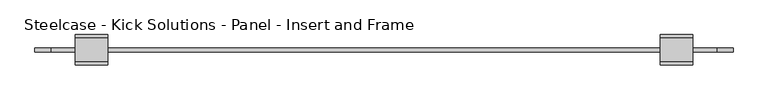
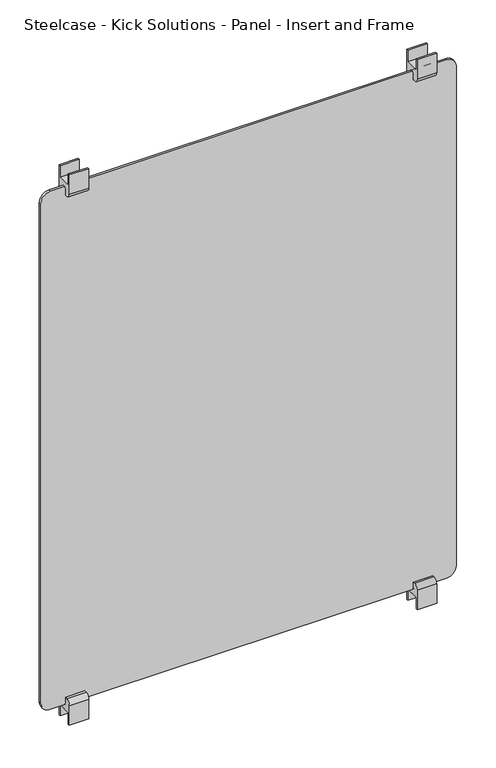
"""IFC4 building model written with IfcOpenShell, lengths in millimetres: furniture geometry, Steelcase - Kick Solutions - Panel - Insert and Frame : Laminate - 66H x 48W."""

from ifc_helpers import new_model, si_unit, point, frame, frame_2d, origin, place, context, project, spatial, polyline, circle_curve, trimmed, segment, composite_curve, outline, extrude, source, transform, mapped, element, save


def steelcase_kick_solutions_panel_insert_and_frame_5995ba37(model_context):
    return source(origin(), model_context, "Body", "SweptSolid", [
        extrude(outline(composite_curve([segment(polyline([(5.3821989, 1651.0), (10.144699, 1651.0), (10.144699, 1596.313221)]), True, "CONTINUOUS"), segment(trimmed(circle_curve(frame_2d((-1.6831687, 1596.313221)), 11.8278677), [point((10.144699, 1596.313221))], [point((-1.6831687, 1584.4853533))], False, "CARTESIAN"), True, "CONTINUOUS"), segment(polyline([(-1.6831687, 1584.4853533), (-7.3178012, 1584.4853533), (-7.3178012, 1599.8857521)]), True, "CONTINUOUS"), segment(trimmed(circle_curve(frame_2d((-13.667801, 1599.8857521)), 6.3499998), [point((-7.3178012, 1599.8857521))], [point((-20.0178007, 1599.8857521))], True, "CARTESIAN"), True, "CONTINUOUS"), segment(polyline([(-20.0178007, 1599.8857521), (-20.0178007, 1584.4853527), (-25.2074988, 1584.4853527)]), True, "CONTINUOUS"), segment(trimmed(circle_curve(frame_2d((-25.2074988, 1596.7581549)), 12.2728022), [point((-25.2074988, 1584.4853527))], [point((-37.480301, 1596.7581549))], False, "CARTESIAN"), True, "CONTINUOUS"), segment(polyline([(-37.480301, 1596.7581549), (-37.480301, 1651.0), (-32.7177988, 1651.0), (-32.7177988, 1619.2499758), (5.3821989, 1619.2499758), (5.3821989, 1651.0)]), True, "CONTINUOUS")], self_intersect=False)), frame((1042.3148583, 0.0, 0.0), z_axis=(1.0, 0.0, 0.0), x_axis=(0.0, 1.0, 0.0)), (0.0, 0.0, 1.0), 50.8),
        extrude(outline(composite_curve([segment(polyline([(5.3821989, 120.6499576), (5.3821989, 152.3999815), (-32.7177988, 152.3999815), (-32.7177988, 120.6499576), (-37.480301, 120.6499576), (-37.480301, 174.8918024)]), True, "CONTINUOUS"), segment(trimmed(circle_curve(frame_2d((-25.2074988, 174.8918024)), 12.2728022), [point((-37.480301, 174.8918024))], [point((-25.2074988, 187.1646046))], False, "CARTESIAN"), True, "CONTINUOUS"), segment(polyline([(-25.2074988, 187.1646046), (-20.0178007, 187.1646046), (-20.0178007, 171.7642058)]), True, "CONTINUOUS"), segment(trimmed(circle_curve(frame_2d((-13.667801, 171.7642058)), 6.3499998), [point((-20.0178007, 171.7642058))], [point((-7.3178012, 171.7642058))], True, "CARTESIAN"), True, "CONTINUOUS"), segment(polyline([(-7.3178012, 171.7642058), (-7.3178012, 187.1646046), (-1.6831687, 187.1646046)]), True, "CONTINUOUS"), segment(trimmed(circle_curve(frame_2d((-1.6831687, 175.3367369)), 11.8278677), [point((-1.6831687, 187.1646046))], [point((10.144699, 175.3367369))], False, "CARTESIAN"), True, "CONTINUOUS"), segment(polyline([(10.144699, 175.3367369), (10.144699, 120.6499576), (5.3821989, 120.6499576)]), True, "CONTINUOUS")], self_intersect=False)), frame((1042.3148583, 0.0, 0.0), z_axis=(1.0, 0.0, 0.0), x_axis=(0.0, 1.0, 0.0)), (0.0, 0.0, 1.0), 50.8),
        extrude(outline(composite_curve([segment(polyline([(5.3821989, 1651.0), (10.144699, 1651.0), (10.144699, 1596.3132204)]), True, "CONTINUOUS"), segment(trimmed(circle_curve(frame_2d((-1.6831684, 1596.3132204)), 11.8278674), [point((10.144699, 1596.3132204))], [point((-1.6831684, 1584.485353))], False, "CARTESIAN"), True, "CONTINUOUS"), segment(polyline([(-1.6831684, 1584.485353), (-7.3178009, 1584.485353), (-7.3178009, 1599.8857521)]), True, "CONTINUOUS"), segment(trimmed(circle_curve(frame_2d((-13.667801, 1599.8857521)), 6.3500001), [point((-7.3178009, 1599.8857521))], [point((-20.017801, 1599.8857521))], True, "CARTESIAN"), True, "CONTINUOUS"), segment(polyline([(-20.017801, 1599.8857521), (-20.017801, 1584.485353), (-25.2074991, 1584.485353)]), True, "CONTINUOUS"), segment(trimmed(circle_curve(frame_2d((-25.2074991, 1596.7581549)), 12.2728019), [point((-25.2074991, 1584.485353))], [point((-37.480301, 1596.7581549))], False, "CARTESIAN"), True, "CONTINUOUS"), segment(polyline([(-37.480301, 1596.7581549), (-37.480301, 1651.0), (-32.7177988, 1651.0), (-32.7177988, 1619.2499758), (5.3821989, 1619.2499758), (5.3821989, 1651.0)]), True, "CONTINUOUS")], self_intersect=False)), frame((126.0851417, 0.0, 0.0), z_axis=(1.0, 0.0, 0.0), x_axis=(0.0, 1.0, 0.0)), (0.0, 0.0, 1.0), 50.8),
        extrude(outline(composite_curve([segment(polyline([(5.3821989, 120.6499576), (5.3821989, 152.3999818), (-32.7177988, 152.3999818), (-32.7177988, 120.6499576), (-37.480301, 120.6499576), (-37.480301, 174.8918027)]), True, "CONTINUOUS"), segment(trimmed(circle_curve(frame_2d((-25.2074991, 174.8918027)), 12.2728019), [point((-37.480301, 174.8918027))], [point((-25.2074991, 187.1646046))], False, "CARTESIAN"), True, "CONTINUOUS"), segment(polyline([(-25.2074991, 187.1646046), (-20.017801, 187.1646046), (-20.017801, 171.7642055)]), True, "CONTINUOUS"), segment(trimmed(circle_curve(frame_2d((-13.667801, 171.7642055)), 6.3500001), [point((-20.017801, 171.7642055))], [point((-7.3178009, 171.7642055))], True, "CARTESIAN"), True, "CONTINUOUS"), segment(polyline([(-7.3178009, 171.7642055), (-7.3178009, 187.1646041), (-1.6831684, 187.1646041)]), True, "CONTINUOUS"), segment(trimmed(circle_curve(frame_2d((-1.6831684, 175.3367366)), 11.8278674), [point((-1.6831684, 187.1646041))], [point((10.144699, 175.3367366))], False, "CARTESIAN"), True, "CONTINUOUS"), segment(polyline([(10.144699, 175.3367366), (10.144699, 120.6499576), (5.3821989, 120.6499576)]), True, "CONTINUOUS")], self_intersect=False)), frame((126.0851417, 0.0, 0.0), z_axis=(1.0, 0.0, 0.0), x_axis=(0.0, 1.0, 0.0)), (0.0, 0.0, 1.0), 50.8),
        extrude(outline(composite_curve([segment(polyline([(1606.5499516, 1131.2148583), (1606.5499516, 87.9851417)]), True, "CONTINUOUS"), segment(trimmed(circle_curve(frame_2d((1581.1499516, 87.9851417)), 25.4), [point((1606.5499516, 87.9851417))], [point((1581.1499516, 62.5851417))], False, "CARTESIAN"), True, "CONTINUOUS"), segment(polyline([(1581.1499516, 62.5851417), (190.5000061, 62.5851417)]), True, "CONTINUOUS"), segment(trimmed(circle_curve(frame_2d((190.5000061, 87.9851417)), 25.4), [point((190.5000061, 62.5851417))], [point((165.1000061, 87.9851417))], False, "CARTESIAN"), True, "CONTINUOUS"), segment(polyline([(165.1000061, 87.9851417), (165.1000061, 1131.2148583)]), True, "CONTINUOUS"), segment(trimmed(circle_curve(frame_2d((190.5000061, 1131.2148583)), 25.4), [point((165.1000061, 1131.2148583))], [point((190.5000061, 1156.6148583))], False, "CARTESIAN"), True, "CONTINUOUS"), segment(polyline([(190.5000061, 1156.6148583), (1581.1499516, 1156.6148583)]), True, "CONTINUOUS"), segment(trimmed(circle_curve(frame_2d((1581.1499516, 1131.2148583)), 25.4), [point((1581.1499516, 1156.6148583))], [point((1606.5499516, 1131.2148583))], False, "CARTESIAN"), True, "CONTINUOUS")], self_intersect=False)), frame((0.0, -16.8428004, 0.0), z_axis=(0.0, 1.0, 0.0), x_axis=(0.0, 0.0, 1.0)), (0.0, 0.0, 1.0), 6.3499985),
    ])


if __name__ == "__main__":
    model = new_model("IFC4")
    model_context = context("Model", 3, world=origin())
    ifc_project = project(units=[si_unit("LENGTHUNIT", "METRE", prefix="MILLI")], contexts=[model_context])
    site = spatial("IfcSite", under=ifc_project)
    building = spatial("IfcBuilding", under=site)
    placement = place(None, origin())
    steelcase_kick_solutions_panel_insert_and_frame_shape = steelcase_kick_solutions_panel_insert_and_frame_5995ba37(model_context)
    element("IfcFurniture", 1, ObjectType="Steelcase - Kick Solutions - Panel - Insert and Frame : Laminate - 66H x 48W", at=placement, inside=building, context=model_context, shape_type="MappedRepresentation", body=[
        mapped(steelcase_kick_solutions_panel_insert_and_frame_shape, transform((0.0, 0.0, 0.0), x_axis=(1.0, 0.0, 0.0), y_axis=(0.0, 1.0, 0.0), z_axis=(0.0, 0.0, 1.0))),
    ])
    save(model, "model.ifc")
